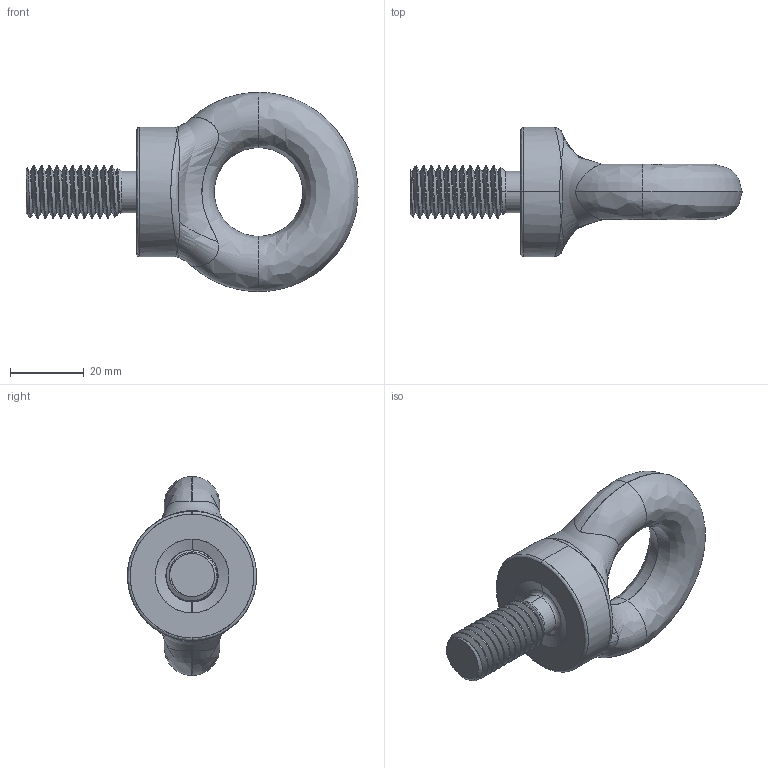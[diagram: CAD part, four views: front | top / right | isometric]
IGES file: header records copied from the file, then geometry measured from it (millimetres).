
Start section: SolidWorks IGES file using analytic representation for surfaces
Global section: file name: C:\Users\Brenton\Documents\Townley\Eye Bolts\Imperial\EBW562\EBW562.IGS; native system: SolidWorks 2012; preprocessor: SolidWorks 2012; author: Brenton; date: 140304.115220; units: millimetre
Bounding box: 89.96 x 35 x 54 mm (x, y, z)
Surface area: 9734.1 mm2 (no closed solid volume)
Topology: 0 solids, 0 shells, 54 faces, 1720 edges, 1712 vertices
Faces by surface type: revolution 32, bspline 22
